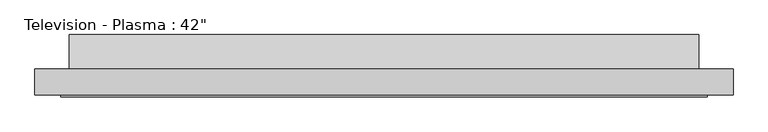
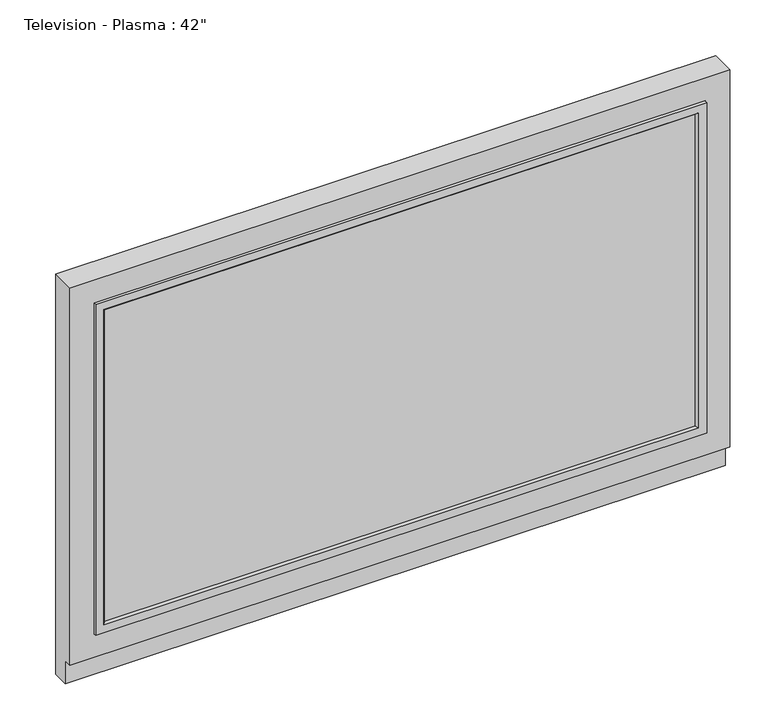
"""IFC4 building model written with IfcOpenShell, lengths in millimetres: furniture geometry."""

from ifc_helpers import new_model, si_unit, frame, origin, place, context, project, spatial, polyline, outline, extrude, faceted_brep, source, transform, mapped, element, save


def furniture_91679fb3(model_context):
    return source(origin(), model_context, "Body", "SolidModel", [
        faceted_brep([(571.5, -50.8, 660.4), (-457.2, -50.8, 660.4), (-457.2, -88.9, 660.4), (571.5, -88.9, 660.4), (-457.2, -50.8, 0.0), (571.5, -50.8, 0.0), (571.5, -76.2, 0.0), (-457.2, -76.2, 0.0), (-457.2, -76.2, 38.1), (-457.2, -88.9, 38.1), (571.5, -88.9, 38.1), (533.4, -88.9, 622.3), (533.4, -88.9, 76.2), (-419.1, -88.9, 76.2), (-419.1, -88.9, 622.3), (571.5, -76.2, 38.1), (533.4, -74.1720413, 622.3), (-419.1, -74.1720413, 622.3), (-419.1, -74.1720413, 76.2), (533.4, -74.1720413, 76.2)], [[[0, 1, 2, 3]], [[4, 5, 6, 7]], [[1, 0, 5, 4]], [[2, 1, 4, 7, 8, 9]], [[3, 2, 9, 10], [11, 12, 13, 14]], [[0, 3, 10, 15, 6, 5]], [[16, 17, 18, 19]], [[16, 19, 12, 11]], [[19, 18, 13, 12]], [[18, 17, 14, 13]], [[17, 16, 11, 14]], [[15, 8, 7, 6]], [[8, 15, 10, 9]]]),
        faceted_brep([(517.525, -88.9, 92.075), (520.7, -92.075, 88.9), (520.7, -92.075, 608.80625), (517.525, -88.9, 605.63125), (520.7, -74.1720413, 88.9), (520.7, -88.9, 88.9), (520.7, -88.9, 608.80625), (520.7, -74.1720413, 608.80625), (533.4, -92.075, 76.2), (533.4, -74.1720413, 76.2), (533.4, -74.1720413, 621.50625), (533.4, -92.075, 621.50625), (-406.4, -92.075, 608.80625), (-403.225, -88.9, 605.63125), (-406.4, -88.9, 608.80625), (-406.4, -74.1720413, 608.80625), (-419.1, -74.1720413, 621.50625), (-419.1, -92.075, 621.50625), (-406.4, -92.075, 88.9), (-403.225, -88.9, 92.075), (-406.4, -88.9, 88.9), (-406.4, -74.1720413, 88.9), (-419.1, -74.1720413, 76.2), (-419.1, -92.075, 76.2)], [[[0, 1, 2, 3]], [[4, 5, 6, 7]], [[8, 9, 10, 11]], [[3, 2, 12, 13]], [[7, 6, 14, 15]], [[11, 10, 16, 17]], [[13, 12, 18, 19]], [[15, 14, 20, 21]], [[17, 16, 22, 23]], [[11, 17, 23, 8], [1, 18, 12, 2]], [[19, 18, 1, 0]], [[5, 20, 14, 6], [3, 13, 19, 0]], [[21, 20, 5, 4]], [[9, 22, 16, 10], [7, 15, 21, 4]], [[23, 22, 9, 8]]]),
        extrude(outline(polyline([(520.7, -88.9), (-406.4, -88.9), (-406.4, -74.1720413), (520.7, -74.1720413), (520.7, -88.9)])), frame((0.0, 0.0, 88.9), z_axis=(0.0, 0.0, 1.0), x_axis=(1.0, 0.0, 0.0)), (0.0, 0.0, 1.0), 520.7),
        extrude(outline(polyline([(0.0, 574.8688953), (0.0, 38.1), (-50.8, 38.1), (-50.8, 609.6), (0.0, 574.8688953)])), frame((-406.4, 0.0, 0.0), z_axis=(1.0, 0.0, 0.0), x_axis=(0.0, 1.0, 0.0)), (0.0, 0.0, 1.0), 927.1),
    ])


if __name__ == "__main__":
    model = new_model("IFC4")
    model_context = context("Model", 3, world=origin())
    ifc_project = project(units=[si_unit("LENGTHUNIT", "METRE", prefix="MILLI")], contexts=[model_context])
    site = spatial("IfcSite", under=ifc_project)
    building = spatial("IfcBuilding", under=site)
    placement = place(None, origin())
    furniture_shape = furniture_91679fb3(model_context)
    element("IfcFurniture", 1, ObjectType="Television - Plasma : 42\"", at=placement, inside=building, context=model_context, shape_type="MappedRepresentation", body=[
        mapped(furniture_shape, transform((0.0, 0.0, 0.0), x_axis=(1.0, 0.0, 0.0), y_axis=(0.0, 1.0, 0.0), z_axis=(0.0, 0.0, 1.0))),
    ])
    save(model, "model.ifc")
